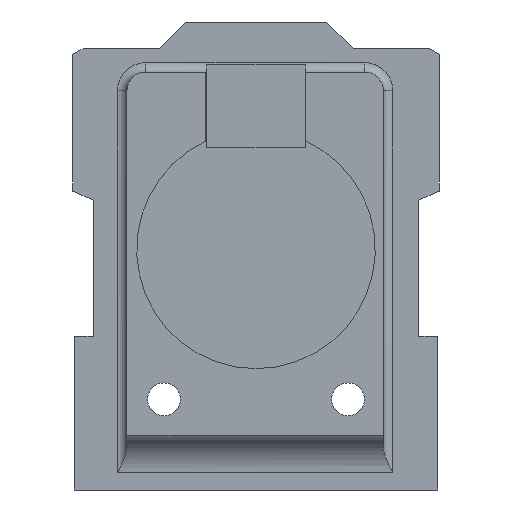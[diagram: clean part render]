
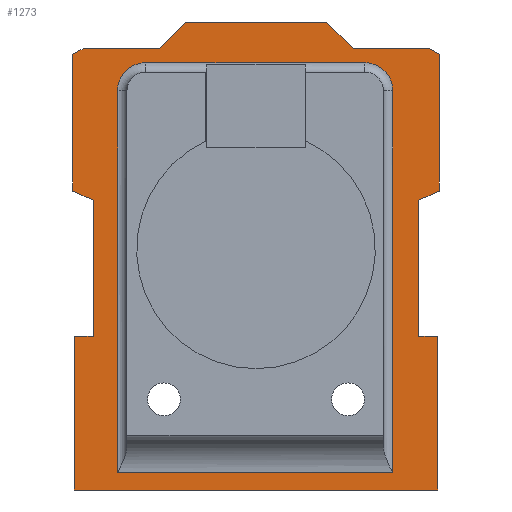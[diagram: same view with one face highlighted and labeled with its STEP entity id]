
A CAD part, front view. The second image highlights one B-rep face of the part: STEP entity #1273.
In plain terms, the highlighted planar face has unit normal (0, -1, 0).
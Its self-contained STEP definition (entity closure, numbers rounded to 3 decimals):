
#595=CARTESIAN_POINT('',(7.555,783.04,29.206));
#596=VERTEX_POINT('',#595);
#597=CARTESIAN_POINT('',(-7.526,783.04,29.206));
#598=VERTEX_POINT('',#597);
#599=CARTESIAN_POINT('',(7.555,783.04,29.206));
#600=DIRECTION('',(-1.,-0.,0.));
#601=VECTOR('',#600,15.081);
#602=LINE('',#599,#601);
#603=EDGE_CURVE('',#596,#598,#602,.T.);
#635=CARTESIAN_POINT('',(10.332,783.04,26.429));
#636=VERTEX_POINT('',#635);
#637=CARTESIAN_POINT('',(10.332,783.04,26.429));
#638=DIRECTION('',(-0.707,0.,0.707));
#639=VECTOR('',#638,3.928);
#640=LINE('',#637,#639);
#641=EDGE_CURVE('',#636,#596,#640,.T.);
#666=CARTESIAN_POINT('',(18.332,783.04,26.429));
#667=VERTEX_POINT('',#666);
#668=CARTESIAN_POINT('',(10.332,783.04,26.429));
#669=DIRECTION('',(1.,-0.,-0.));
#670=VECTOR('',#669,8.);
#671=LINE('',#668,#670);
#672=EDGE_CURVE('',#636,#667,#671,.T.);
#697=CARTESIAN_POINT('',(19.51,783.04,25.754));
#698=VERTEX_POINT('',#697);
#699=CARTESIAN_POINT('',(18.332,783.04,26.429));
#700=DIRECTION('',(0.868,-0.,-0.497));
#701=VECTOR('',#700,1.357);
#702=LINE('',#699,#701);
#703=EDGE_CURVE('',#667,#698,#702,.T.);
#728=CARTESIAN_POINT('',(19.51,783.04,11.208));
#729=VERTEX_POINT('',#728);
#730=CARTESIAN_POINT('',(19.51,783.04,25.754));
#731=DIRECTION('',(-0.,-0.,-1.));
#732=VECTOR('',#731,14.546);
#733=LINE('',#730,#732);
#734=EDGE_CURVE('',#698,#729,#733,.T.);
#759=CARTESIAN_POINT('',(17.329,783.04,10.223));
#760=VERTEX_POINT('',#759);
#761=CARTESIAN_POINT('',(19.51,783.04,11.208));
#762=DIRECTION('',(-0.911,-0.,-0.411));
#763=VECTOR('',#762,2.394);
#764=LINE('',#761,#763);
#765=EDGE_CURVE('',#729,#760,#764,.T.);
#790=CARTESIAN_POINT('',(17.329,783.04,-4.271));
#791=VERTEX_POINT('',#790);
#792=CARTESIAN_POINT('',(17.329,783.04,10.223));
#793=DIRECTION('',(-0.,-0.,-1.));
#794=VECTOR('',#793,14.494);
#795=LINE('',#792,#794);
#796=EDGE_CURVE('',#760,#791,#795,.T.);
#821=CARTESIAN_POINT('',(19.329,783.04,-4.271));
#822=VERTEX_POINT('',#821);
#823=CARTESIAN_POINT('',(19.329,783.04,-4.271));
#824=DIRECTION('',(-1.,-0.,0.));
#825=VECTOR('',#824,2.);
#826=LINE('',#823,#825);
#827=EDGE_CURVE('',#822,#791,#826,.T.);
#852=CARTESIAN_POINT('',(19.329,783.04,-20.622));
#853=VERTEX_POINT('',#852);
#854=CARTESIAN_POINT('',(19.329,783.04,-4.271));
#855=DIRECTION('',(-0.,-0.,-1.));
#856=VECTOR('',#855,16.352);
#857=LINE('',#854,#856);
#858=EDGE_CURVE('',#822,#853,#857,.T.);
#883=CARTESIAN_POINT('',(-19.329,783.04,-20.622));
#884=VERTEX_POINT('',#883);
#885=CARTESIAN_POINT('',(19.329,783.04,-20.622));
#886=DIRECTION('',(-1.,-0.,0.));
#887=VECTOR('',#886,38.657);
#888=LINE('',#885,#887);
#889=EDGE_CURVE('',#853,#884,#888,.T.);
#914=CARTESIAN_POINT('',(-19.329,783.04,-4.271));
#915=VERTEX_POINT('',#914);
#916=CARTESIAN_POINT('',(-19.329,783.04,-4.271));
#917=DIRECTION('',(-0.,-0.,-1.));
#918=VECTOR('',#917,16.352);
#919=LINE('',#916,#918);
#920=EDGE_CURVE('',#915,#884,#919,.T.);
#945=CARTESIAN_POINT('',(-17.329,783.04,-4.271));
#946=VERTEX_POINT('',#945);
#947=CARTESIAN_POINT('',(-19.329,783.04,-4.271));
#948=DIRECTION('',(1.,-0.,-0.));
#949=VECTOR('',#948,2.);
#950=LINE('',#947,#949);
#951=EDGE_CURVE('',#915,#946,#950,.T.);
#976=CARTESIAN_POINT('',(-17.329,783.04,10.223));
#977=VERTEX_POINT('',#976);
#978=CARTESIAN_POINT('',(-17.329,783.04,10.223));
#979=DIRECTION('',(-0.,-0.,-1.));
#980=VECTOR('',#979,14.494);
#981=LINE('',#978,#980);
#982=EDGE_CURVE('',#977,#946,#981,.T.);
#1007=CARTESIAN_POINT('',(-19.51,783.04,11.208));
#1008=VERTEX_POINT('',#1007);
#1009=CARTESIAN_POINT('',(-17.329,783.04,10.223));
#1010=DIRECTION('',(-0.911,-0.,0.411));
#1011=VECTOR('',#1010,2.394);
#1012=LINE('',#1009,#1011);
#1013=EDGE_CURVE('',#977,#1008,#1012,.T.);
#1038=CARTESIAN_POINT('',(-19.51,783.04,25.753));
#1039=VERTEX_POINT('',#1038);
#1040=CARTESIAN_POINT('',(-19.51,783.04,11.208));
#1041=DIRECTION('',(-0.,-0.,1.));
#1042=VECTOR('',#1041,14.545);
#1043=LINE('',#1040,#1042);
#1044=EDGE_CURVE('',#1008,#1039,#1043,.T.);
#1069=CARTESIAN_POINT('',(-18.303,783.04,26.429));
#1070=VERTEX_POINT('',#1069);
#1071=CARTESIAN_POINT('',(-19.51,783.04,25.753));
#1072=DIRECTION('',(0.873,-0.,0.489));
#1073=VECTOR('',#1072,1.383);
#1074=LINE('',#1071,#1073);
#1075=EDGE_CURVE('',#1039,#1070,#1074,.T.);
#1100=CARTESIAN_POINT('',(-10.303,783.04,26.429));
#1101=VERTEX_POINT('',#1100);
#1102=CARTESIAN_POINT('',(-18.303,783.04,26.429));
#1103=DIRECTION('',(1.,-0.,-0.));
#1104=VECTOR('',#1103,8.);
#1105=LINE('',#1102,#1104);
#1106=EDGE_CURVE('',#1070,#1101,#1105,.T.);
#1131=CARTESIAN_POINT('',(-10.303,783.04,26.429));
#1132=DIRECTION('',(0.707,-0.,0.707));
#1133=VECTOR('',#1132,3.928);
#1134=LINE('',#1131,#1133);
#1135=EDGE_CURVE('',#1101,#598,#1134,.T.);
#1196=CARTESIAN_POINT('',(0.006,783.04,1.125));
#1197=DIRECTION('',(0.,1.,0.));
#1198=DIRECTION('',(0.,0.,1.));
#1199=AXIS2_PLACEMENT_3D('',#1196,#1197,#1198);
#1200=PLANE('',#1199);
#1201=CARTESIAN_POINT('',(14.567,783.04,21.875));
#1202=VERTEX_POINT('',#1201);
#1203=CARTESIAN_POINT('',(14.567,783.04,-18.796));
#1204=VERTEX_POINT('',#1203);
#1205=CARTESIAN_POINT('',(14.567,783.04,21.875));
#1206=DIRECTION('',(-0.,-0.,-1.));
#1207=VECTOR('',#1206,40.671);
#1208=LINE('',#1205,#1207);
#1209=EDGE_CURVE('',#1202,#1204,#1208,.T.);
#1210=ORIENTED_EDGE('',*,*,#1209,.T.);
#1211=CARTESIAN_POINT('',(-14.744,783.04,-18.796));
#1212=VERTEX_POINT('',#1211);
#1213=CARTESIAN_POINT('',(14.567,783.04,-18.796));
#1214=DIRECTION('',(-1.,-0.,0.));
#1215=VECTOR('',#1214,29.31);
#1216=LINE('',#1213,#1215);
#1217=EDGE_CURVE('',#1204,#1212,#1216,.T.);
#1218=ORIENTED_EDGE('',*,*,#1217,.T.);
#1219=CARTESIAN_POINT('',(-14.744,783.04,21.875));
#1220=VERTEX_POINT('',#1219);
#1221=CARTESIAN_POINT('',(-14.744,783.04,-18.796));
#1222=DIRECTION('',(0.,0.,1.));
#1223=VECTOR('',#1222,40.671);
#1224=LINE('',#1221,#1223);
#1225=EDGE_CURVE('',#1212,#1220,#1224,.T.);
#1226=ORIENTED_EDGE('',*,*,#1225,.T.);
#1227=CARTESIAN_POINT('',(-11.744,783.04,24.875));
#1228=VERTEX_POINT('',#1227);
#1229=CARTESIAN_POINT('',(-11.744,783.04,21.875));
#1230=DIRECTION('',(0.,1.,0.));
#1231=DIRECTION('',(0.,-0.,1.));
#1232=AXIS2_PLACEMENT_3D('',#1229,#1230,#1231);
#1233=CIRCLE('',#1232,3.);
#1234=EDGE_CURVE('',#1220,#1228,#1233,.T.);
#1235=ORIENTED_EDGE('',*,*,#1234,.T.);
#1236=CARTESIAN_POINT('',(11.567,783.04,24.875));
#1237=VERTEX_POINT('',#1236);
#1238=CARTESIAN_POINT('',(-11.744,783.04,24.875));
#1239=DIRECTION('',(1.,0.,-0.));
#1240=VECTOR('',#1239,23.31);
#1241=LINE('',#1238,#1240);
#1242=EDGE_CURVE('',#1228,#1237,#1241,.T.);
#1243=ORIENTED_EDGE('',*,*,#1242,.T.);
#1244=CARTESIAN_POINT('',(11.567,783.04,21.875));
#1245=DIRECTION('',(0.,1.,0.));
#1246=DIRECTION('',(0.,-0.,1.));
#1247=AXIS2_PLACEMENT_3D('',#1244,#1245,#1246);
#1248=CIRCLE('',#1247,3.);
#1249=EDGE_CURVE('',#1237,#1202,#1248,.T.);
#1250=ORIENTED_EDGE('',*,*,#1249,.T.);
#1251=EDGE_LOOP('',(#1210,#1218,#1226,#1235,#1243,#1250));
#1252=FACE_BOUND('',#1251,.T.);
#1253=ORIENTED_EDGE('',*,*,#603,.T.);
#1254=ORIENTED_EDGE('',*,*,#1135,.F.);
#1255=ORIENTED_EDGE('',*,*,#1106,.F.);
#1256=ORIENTED_EDGE('',*,*,#1075,.F.);
#1257=ORIENTED_EDGE('',*,*,#1044,.F.);
#1258=ORIENTED_EDGE('',*,*,#1013,.F.);
#1259=ORIENTED_EDGE('',*,*,#982,.T.);
#1260=ORIENTED_EDGE('',*,*,#951,.F.);
#1261=ORIENTED_EDGE('',*,*,#920,.T.);
#1262=ORIENTED_EDGE('',*,*,#889,.F.);
#1263=ORIENTED_EDGE('',*,*,#858,.F.);
#1264=ORIENTED_EDGE('',*,*,#827,.T.);
#1265=ORIENTED_EDGE('',*,*,#796,.F.);
#1266=ORIENTED_EDGE('',*,*,#765,.F.);
#1267=ORIENTED_EDGE('',*,*,#734,.F.);
#1268=ORIENTED_EDGE('',*,*,#703,.F.);
#1269=ORIENTED_EDGE('',*,*,#672,.F.);
#1270=ORIENTED_EDGE('',*,*,#641,.T.);
#1271=EDGE_LOOP('',(#1253,#1254,#1255,#1256,#1257,#1258,#1259,#1260,#1261,#1262,#1263,#1264,#1265,#1266,#1267,#1268,#1269,#1270));
#1272=FACE_BOUND('',#1271,.T.);
#1273=ADVANCED_FACE('',(#1252,#1272),#1200,.F.);
